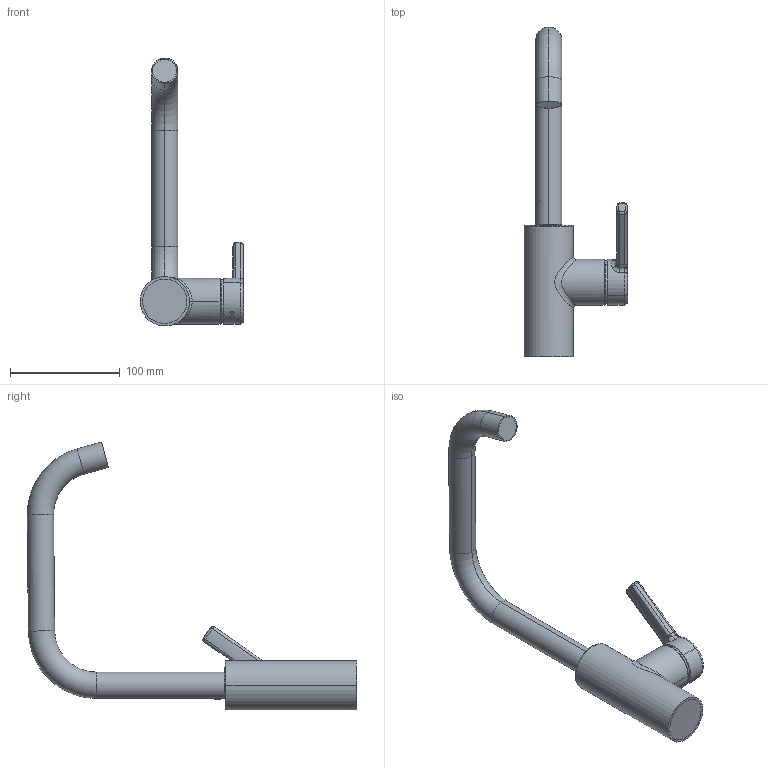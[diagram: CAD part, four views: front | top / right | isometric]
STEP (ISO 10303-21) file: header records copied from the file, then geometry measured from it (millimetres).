
FILE_DESCRIPTION((''),'2;1');
FILE_NAME('509499_SW0002','2020-08-26T15:35:47',('LF994'),(''),'CREO PARAMETRIC BY PTC INC, 2018500','CREO PARAMETRIC BY PTC INC, 2018500','');
FILE_SCHEMA(('CONFIG_CONTROL_DESIGN'));
Length unit declared in the file: millimetre
Products named in the file (1): 509499_SW0002
Bounding box: 94.72 x 300.37 x 244.39 mm (x, y, z)
Volume: 165302.2 mm3; surface area: 110989.2 mm2
Topology: 3 solids, 3 shells, 624 faces, 1498 edges, 889 vertices
Faces by surface type: bspline 180, cylinder 149, cone 106, plane 93, torus 87, sphere 9
Entity records: 32086 total; most frequent: CARTESIAN_POINT 18971, ORIENTED_EDGE 2992, DIRECTION 2432, EDGE_CURVE 1496, AXIS2_PLACEMENT_3D 1045, VERTEX_POINT 889, EDGE_LOOP 641, FACE_OUTER_BOUND 624
